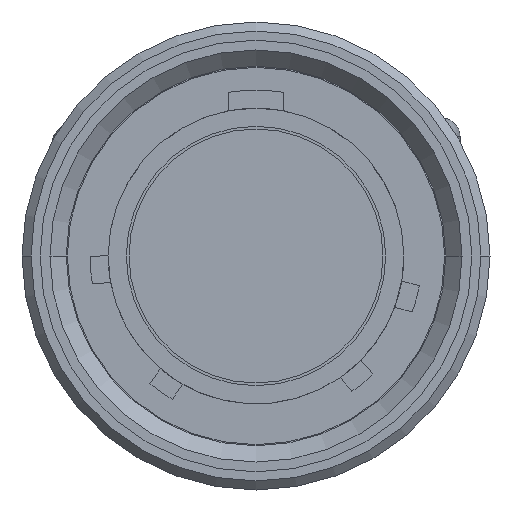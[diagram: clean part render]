
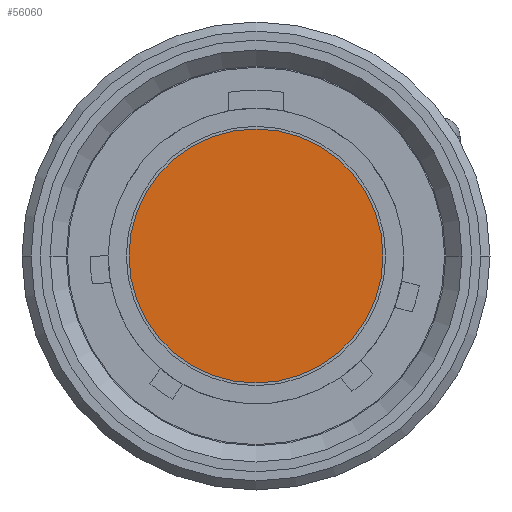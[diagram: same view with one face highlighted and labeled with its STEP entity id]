
A CAD part, front view. The second image highlights one B-rep face of the part: STEP entity #56060.
In plain terms, the highlighted planar face has unit normal (0, -1, 0).
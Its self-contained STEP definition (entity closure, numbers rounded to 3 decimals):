
#55730=CARTESIAN_POINT('',(-7.,-29.4,0.));
#55740=VERTEX_POINT('',#55730);
#55820=CARTESIAN_POINT('',(7.,-29.4,0.));
#55830=VERTEX_POINT('',#55820);
#55860=CARTESIAN_POINT('',(0.,-29.4,0.));
#55870=DIRECTION('',(0.,1.,0.));
#55880=DIRECTION('',(1.,0.,0.));
#55890=AXIS2_PLACEMENT_3D('',#55860,#55870,#55880);
#55900=CIRCLE('',#55890,7.);
#55910=EDGE_CURVE('',#55740,#55830,#55900,.T.);
#55960=CARTESIAN_POINT('',(3.5,-29.4,0.));
#55970=DIRECTION('',(-0.,-1.,-0.));
#55980=DIRECTION('',(-1.,0.,0.));
#55990=AXIS2_PLACEMENT_3D('',#55960,#55970,#55980);
#56000=PLANE('',#55990);
#56010=EDGE_CURVE('',#55830,#55740,#55900,.T.);
#56020=ORIENTED_EDGE('',*,*,#56010,.F.);
#56030=ORIENTED_EDGE('',*,*,#55910,.F.);
#56040=EDGE_LOOP('',(#56030,#56020));
#56050=FACE_OUTER_BOUND('',#56040,.T.);
#56060=ADVANCED_FACE('',(#56050),#56000,.T.);
